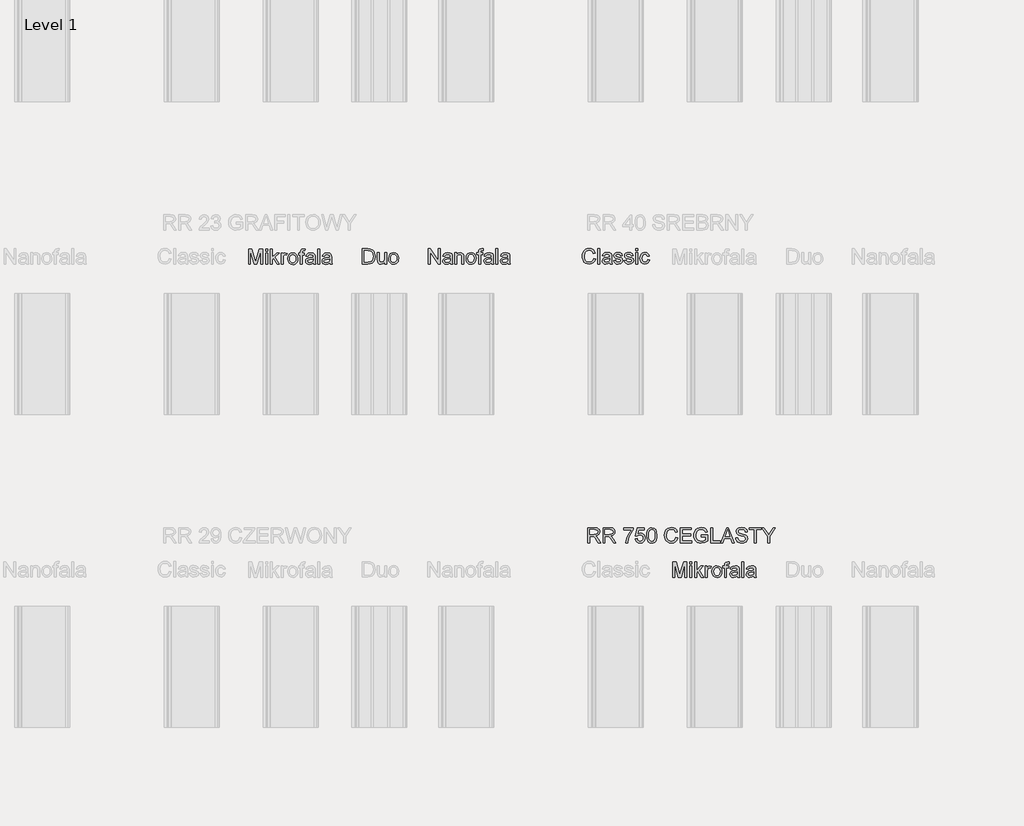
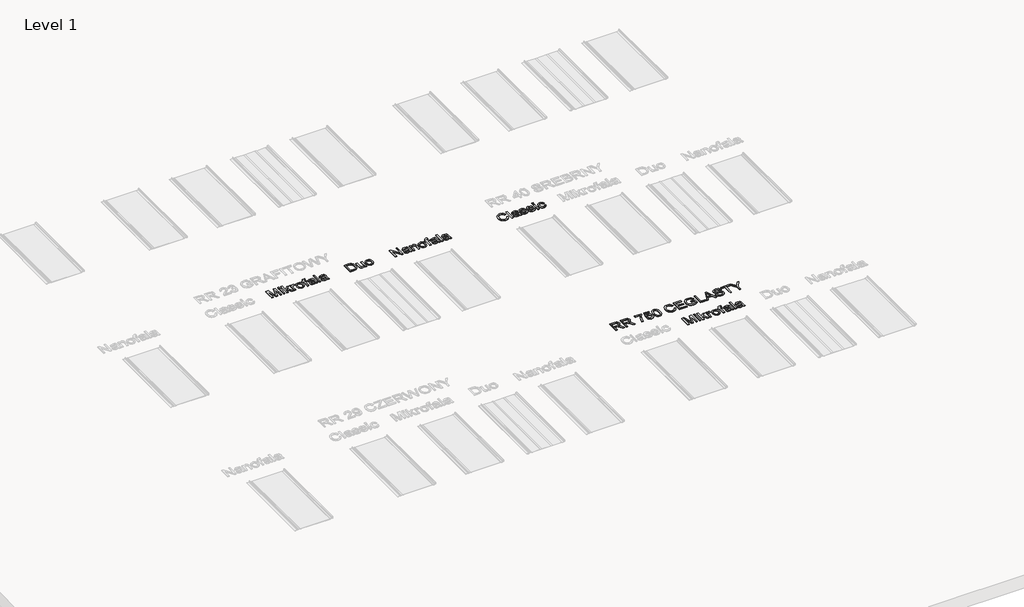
# One storey, part 13 of 22: 6 proxies.
"""IFC4 building model written with IfcOpenShell, lengths in millimetres."""

from ifc_helpers import new_model, si_unit, frame, origin, place, context, project, spatial, polyline, outline, extrude, element, save

model = new_model("IFC4")

# Units and contexts
model_context = context("Model", 3, world=origin())
ifc_project = project(units=[si_unit("LENGTHUNIT", "METRE", prefix="MILLI")], contexts=[model_context])

# Site, building, storey
site = spatial("IfcSite", under=ifc_project)
building = spatial("IfcBuilding", under=site)
storey = spatial("IfcBuildingStorey", under=building, Name="Level 1", Elevation=0.0)

# Proxies
placement = place(None, origin())
element("IfcBuildingElementProxy", 1, Name="150", ObjectType="150", at=placement, inside=storey, context=model_context, shape_type="SweptSolid", body=[
    extrude(outline(polyline([(-3695.6654959, -1975.281387), (-3695.6654959, -1824.5969218), (-3663.3654568, -1824.5969218), (-3632.4633692, -1930.8044538), (-3626.2093753, -1952.9877381), (-3619.4771347, -1928.9650438), (-3589.1636583, -1824.5969218), (-3556.7532546, -1824.5969218), (-3556.7532546, -1975.281387), (-3575.5888127, -1975.281387), (-3575.5888127, -1843.4324799), (-3613.44387, -1975.281387), (-3638.9380923, -1975.281387), (-3676.8299378, -1843.4324799), (-3676.8299378, -1975.281387), (-3695.6654959, -1975.281387)])), frame((0.0, 0.0, 600.0), z_axis=(0.0, 0.0, 1.0), x_axis=(1.0, 0.0, 0.0)), (0.0, 0.0, 1.0), 10.0),
    extrude(outline(polyline([(-3526.1454726, -1843.4324799), (-3526.1454726, -1824.5969218), (-3507.3099144, -1824.5969218), (-3507.3099144, -1843.4324799), (-3526.1454726, -1843.4324799)])), frame((0.0, 0.0, 600.0), z_axis=(0.0, 0.0, 1.0), x_axis=(1.0, 0.0, 0.0)), (0.0, 0.0, 1.0), 10.0),
    extrude(outline(polyline([(-3526.1454726, -1975.281387), (-3526.1454726, -1864.6224829), (-3507.3099144, -1864.6224829), (-3507.3099144, -1975.281387), (-3526.1454726, -1975.281387)])), frame((0.0, 0.0, 600.0), z_axis=(0.0, 0.0, 1.0), x_axis=(1.0, 0.0, 0.0)), (0.0, 0.0, 1.0), 10.0),
    extrude(outline(polyline([(-3479.0565772, -1975.281387), (-3479.0565772, -1824.5969218), (-3460.221019, -1824.5969218), (-3460.221019, -1905.5677489), (-3417.988166, -1864.6224829), (-3391.9421207, -1864.6224829), (-3434.7267968, -1906.0827837), (-3389.587676, -1975.281387), (-3411.5870193, -1975.281387), (-3448.228066, -1919.1793827), (-3460.221019, -1930.841242), (-3460.221019, -1975.281387), (-3479.0565772, -1975.281387)])), frame((0.0, 0.0, 600.0), z_axis=(0.0, 0.0, 1.0), x_axis=(1.0, 0.0, 0.0)), (0.0, 0.0, 1.0), 10.0),
    extrude(outline(polyline([(-3373.1065626, -1975.281387), (-3373.1065626, -1864.6224829), (-3356.6254492, -1864.6224829), (-3356.6254492, -1880.9932316), (-3344.9268017, -1865.9100698), (-3333.1545779, -1862.2680381), (-3314.2454433, -1868.0805736), (-3320.5362255, -1884.9663572), (-3333.7799773, -1881.1035962), (-3344.4301611, -1884.8192044), (-3351.2175839, -1895.1199003), (-3354.2710044, -1917.1192436), (-3354.2710044, -1975.281387), (-3373.1065626, -1975.281387)])), frame((0.0, 0.0, 600.0), z_axis=(0.0, 0.0, 1.0), x_axis=(1.0, 0.0, 0.0)), (0.0, 0.0, 1.0), 10.0),
    extrude(outline(polyline([(-3307.182109, -1919.9519349), (-3303.1078159, -1893.2712932), (-3290.8849367, -1874.5185085), (-3275.7833808, -1865.3306557), (-3257.7019807, -1862.2680381), (-3237.9145279, -1865.9974418), (-3222.1093977, -1877.185653), (-3211.748921, -1894.9497548), (-3208.2954287, -1918.4068306), (-3209.822139, -1937.4355268), (-3214.4022699, -1951.9208803), (-3221.902464, -1962.7688007), (-3232.1893643, -1970.8851972), (-3244.4076451, -1975.9481731), (-3257.7019807, -1977.6358318), (-3277.7285568, -1973.9202236), (-3293.5152929, -1962.7733992), (-3303.765405, -1944.6368168), (-3307.182109, -1919.9519349)]), holes=[polyline([(-3288.3465509, -1919.9151467), (-3286.1668501, -1936.9618787), (-3279.6277476, -1949.1065831), (-3269.7869042, -1956.376851), (-3257.7019807, -1958.8002736), (-3245.6722394, -1956.3630554), (-3235.8497902, -1949.0514008), (-3229.3106877, -1936.745748), (-3227.1309869, -1919.3265355), (-3229.3244833, -1902.7764443), (-3235.9049725, -1890.7972868), (-3245.7412173, -1883.5270189), (-3257.7019807, -1881.1035962), (-3269.7869042, -1883.5178218), (-3279.6277476, -1890.7604986), (-3286.1668501, -1902.8776118), (-3288.3465509, -1919.9151467)])]), frame((0.0, 0.0, 600.0), z_axis=(0.0, 0.0, 1.0), x_axis=(1.0, 0.0, 0.0)), (0.0, 0.0, 1.0), 10.0),
    extrude(outline(polyline([(-3182.3965363, -1975.281387), (-3182.3965363, -1883.458041), (-3198.8776497, -1883.458041), (-3198.8776497, -1864.6224829), (-3182.3965363, -1864.6224829), (-3182.3965363, -1853.4756584), (-3180.4099735, -1837.7670972), (-3170.7714652, -1826.5466964), (-3151.7887543, -1822.242477), (-3134.6086651, -1824.3026162), (-3137.3677801, -1841.960952), (-3148.2202989, -1841.0780352), (-3160.0844933, -1844.2050321), (-3163.5609781, -1855.8668914), (-3163.5609781, -1864.6224829), (-3142.3709752, -1864.6224829), (-3142.3709752, -1883.458041), (-3163.5609781, -1883.458041), (-3163.5609781, -1975.281387), (-3182.3965363, -1975.281387)])), frame((0.0, 0.0, 600.0), z_axis=(0.0, 0.0, 1.0), x_axis=(1.0, 0.0, 0.0)), (0.0, 0.0, 1.0), 10.0),
    extrude(outline(polyline([(-3055.2565187, -1961.1547184), (-3073.5218598, -1973.9202236), (-3093.7001872, -1977.6358318), (-3109.4409381, -1975.4009487), (-3121.0522136, -1968.6962993), (-3128.2121169, -1958.5151651), (-3130.5987514, -1945.8508274), (-3126.9935078, -1930.9516066), (-3117.5205464, -1920.1358759), (-3104.3319769, -1913.9554584), (-3088.0348045, -1911.1227671), (-3055.3668833, -1904.6480439), (-3055.2565187, -1900.4541892), (-3056.5533028, -1892.0480856), (-3060.4436549, -1886.5482498), (-3069.1440641, -1882.4647596), (-3081.2657758, -1881.1035962), (-3100.3220632, -1884.7272339), (-3109.4087484, -1897.5847096), (-3128.2443066, -1895.2302649), (-3120.0957204, -1876.8361651), (-3103.6881834, -1866.0572226), (-3078.8377546, -1862.2680381), (-3056.0106768, -1865.6157643), (-3043.1164129, -1874.0218678), (-3037.3406656, -1886.8057672), (-3036.4209606, -1903.2868806), (-3036.4209606, -1926.7209636), (-3035.4644674, -1959.4440671), (-3031.7120711, -1975.281387), (-3050.5476292, -1975.281387), (-3055.2565187, -1961.1547184)]), holes=[polyline([(-3055.2565187, -1923.4836021), (-3085.6435715, -1929.2593494), (-3101.8487734, -1932.31277), (-3109.1880192, -1937.2791769), (-3111.7631932, -1944.5264522), (-3106.1529928, -1954.7167835), (-3089.6902735, -1958.8002736), (-3070.6339861, -1954.2937192), (-3058.3467275, -1943.386018), (-3055.3668833, -1928.817891), (-3055.2565187, -1923.4836021)])]), frame((0.0, 0.0, 600.0), z_axis=(0.0, 0.0, 1.0), x_axis=(1.0, 0.0, 0.0)), (0.0, 0.0, 1.0), 10.0),
    extrude(outline(polyline([(-3010.5220681, -1975.281387), (-3010.5220681, -1824.5969218), (-2991.68651, -1824.5969218), (-2991.68651, -1975.281387), (-3010.5220681, -1975.281387)])), frame((0.0, 0.0, 600.0), z_axis=(0.0, 0.0, 1.0), x_axis=(1.0, 0.0, 0.0)), (0.0, 0.0, 1.0), 10.0),
    extrude(outline(polyline([(-2892.7998297, -1961.1547184), (-2911.0651707, -1973.9202236), (-2931.2434982, -1977.6358318), (-2946.984249, -1975.4009487), (-2958.5955245, -1968.6962993), (-2965.7554278, -1958.5151651), (-2968.1420623, -1945.8508274), (-2964.5368187, -1930.9516066), (-2955.0638574, -1920.1358759), (-2941.8752878, -1913.9554584), (-2925.5781154, -1911.1227671), (-2892.9101943, -1904.6480439), (-2892.7998297, -1900.4541892), (-2894.0966137, -1892.0480856), (-2897.9869658, -1886.5482498), (-2906.687375, -1882.4647596), (-2918.8090867, -1881.1035962), (-2937.8653741, -1884.7272339), (-2946.9520594, -1897.5847096), (-2965.7876175, -1895.2302649), (-2957.6390313, -1876.8361651), (-2941.2314943, -1866.0572226), (-2916.3810656, -1862.2680381), (-2893.5539878, -1865.6157643), (-2880.6597238, -1874.0218678), (-2874.8839765, -1886.8057672), (-2873.9642715, -1903.2868806), (-2873.9642715, -1926.7209636), (-2873.0077783, -1959.4440671), (-2869.255382, -1975.281387), (-2888.0909401, -1975.281387), (-2892.7998297, -1961.1547184)]), holes=[polyline([(-2892.7998297, -1923.4836021), (-2923.1868825, -1929.2593494), (-2939.3920844, -1932.31277), (-2946.7313302, -1937.2791769), (-2949.3065041, -1944.5264522), (-2943.6963037, -1954.7167835), (-2927.2335844, -1958.8002736), (-2908.1772971, -1954.2937192), (-2895.8900384, -1943.386018), (-2892.9101943, -1928.817891), (-2892.7998297, -1923.4836021)])]), frame((0.0, 0.0, 600.0), z_axis=(0.0, 0.0, 1.0), x_axis=(1.0, 0.0, 0.0)), (0.0, 0.0, 1.0), 10.0),
])
element("IfcBuildingElementProxy", 2, Name="150", ObjectType="150", at=placement, inside=storey, context=model_context, shape_type="SweptSolid", body=[
    extrude(outline(polyline([(-2567.5807075, -1972.1592468), (-2567.5807075, -1821.4747816), (-2515.5989816, -1821.4747816), (-2488.7068077, -1823.6452853), (-2466.5603116, -1834.4242278), (-2456.1400541, -1845.902146), (-2448.7180349, -1860.1759675), (-2444.2758598, -1876.9697805), (-2442.7951347, -1896.0076738), (-2446.8050485, -1926.4131207), (-2457.1057443, -1948.3572817), (-2470.864531, -1962.0240978), (-2488.8723546, -1969.5840728), (-2513.097384, -1972.1592468), (-2567.5807075, -1972.1592468)]), holes=[polyline([(-2548.7451493, -1953.3236886), (-2515.4150406, -1953.3236886), (-2491.1716171, -1950.6013619), (-2477.1921013, -1942.9126282), (-2465.7325771, -1924.2058287), (-2461.6306929, -1895.7133682), (-2463.6402483, -1875.1855529), (-2469.6689145, -1860.0288147), (-2478.5762573, -1849.6177542), (-2489.2218425, -1843.3269721), (-2515.9300754, -1840.3103397), (-2548.7451493, -1840.3103397), (-2548.7451493, -1953.3236886)])]), frame((0.0, 0.0, 600.0), z_axis=(0.0, 0.0, 1.0), x_axis=(1.0, 0.0, 0.0)), (0.0, 0.0, 1.0), 10.0),
    extrude(outline(polyline([(-2348.617344, -1972.1592468), (-2348.617344, -1953.1397476), (-2363.369412, -1969.1702056), (-2382.6096403, -1974.5136916), (-2400.3231584, -1970.7612952), (-2412.5368406, -1961.3435161), (-2418.1470411, -1947.4743649), (-2419.250687, -1929.9631819), (-2419.250687, -1861.5003426), (-2400.4151289, -1861.5003426), (-2400.4151289, -1921.0972259), (-2399.2746947, -1940.300666), (-2391.8250843, -1951.5762492), (-2377.7903862, -1955.6781334), (-2362.0634309, -1951.4842787), (-2351.6707645, -1940.0615427), (-2348.617344, -1919.0738749), (-2348.617344, -1861.5003426), (-2329.7817858, -1861.5003426), (-2329.7817858, -1972.1592468), (-2348.617344, -1972.1592468)])), frame((0.0, 0.0, 600.0), z_axis=(0.0, 0.0, 1.0), x_axis=(1.0, 0.0, 0.0)), (0.0, 0.0, 1.0), 10.0),
    extrude(outline(polyline([(-2308.5917829, -1916.8297947), (-2304.5174898, -1890.149153), (-2292.2946105, -1871.3963683), (-2277.1930546, -1862.2085155), (-2259.1116545, -1859.1458979), (-2239.3242017, -1862.8753016), (-2223.5190715, -1874.0635128), (-2213.1585948, -1891.8276146), (-2209.7051026, -1915.2846903), (-2211.2318129, -1934.3133865), (-2215.8119437, -1948.7987401), (-2223.3121379, -1959.6466604), (-2233.5990382, -1967.7630569), (-2245.8173189, -1972.8260329), (-2259.1116545, -1974.5136916), (-2279.1382307, -1970.7980834), (-2294.9249668, -1959.651259), (-2305.1750789, -1941.5146766), (-2308.5917829, -1916.8297947)]), holes=[polyline([(-2289.7562247, -1916.7930065), (-2287.5765239, -1933.8397385), (-2281.0374215, -1945.9844428), (-2271.1965781, -1953.2547108), (-2259.1116545, -1955.6781334), (-2247.0819133, -1953.2409152), (-2237.259464, -1945.9292605), (-2230.7203616, -1933.6236078), (-2228.5406607, -1916.2043953), (-2230.7341571, -1899.6543041), (-2237.3146463, -1887.6751466), (-2247.1508912, -1880.4048787), (-2259.1116545, -1877.981456), (-2271.1965781, -1880.3956816), (-2281.0374215, -1887.6383584), (-2287.5765239, -1899.7554716), (-2289.7562247, -1916.7930065)])]), frame((0.0, 0.0, 600.0), z_axis=(0.0, 0.0, 1.0), x_axis=(1.0, 0.0, 0.0)), (0.0, 0.0, 1.0), 10.0),
])
element("IfcBuildingElementProxy", 3, Name="150", ObjectType="150", at=placement, inside=storey, context=model_context, shape_type="SweptSolid", body=[
    extrude(outline(polyline([(-279.0085992, -1917.1818641), (-260.1730411, -1922.0379064), (-268.8642532, -1943.986666), (-282.5034782, -1960.0217224), (-300.4193314, -1969.8303761), (-321.9404281, -1973.0999274), (-343.7880201, -1970.6259209), (-361.1382547, -1963.2039017), (-374.4371888, -1951.091387), (-384.1308794, -1934.5458943), (-390.049181, -1915.0941338), (-392.0219482, -1894.2628158), (-389.7916636, -1872.2910636), (-383.1008098, -1853.3175497), (-372.2988747, -1837.9446809), (-357.7353462, -1826.7748638), (-340.4632865, -1819.9736454), (-321.5357579, -1817.7065726), (-300.8837824, -1820.6404315), (-283.8094593, -1829.4420082), (-270.8462175, -1843.5686769), (-262.5274859, -1862.4778114), (-281.363044, -1866.9659718), (-287.8929494, -1853.2301778), (-296.8140878, -1843.8078002), (-308.2368238, -1838.3585481), (-322.2715219, -1836.5421308), (-338.4491326, -1838.5562847), (-351.7388697, -1844.5987464), (-361.8234349, -1854.0349196), (-368.38553, -1866.2302078), (-373.18639, -1894.2260276), (-371.7654458, -1911.626846), (-367.5026132, -1926.6732196), (-360.2369438, -1938.7903328), (-349.8074892, -1947.40337), (-337.3040999, -1952.5491194), (-323.8166263, -1954.2643692), (-308.0942695, -1951.9283185), (-294.9930719, -1944.9201665), (-285.1016448, -1933.3134896), (-279.0085992, -1917.1818641)])), frame((0.0, 0.0, 600.0), z_axis=(0.0, 0.0, 1.0), x_axis=(1.0, 0.0, 0.0)), (0.0, 0.0, 1.0), 10.0),
    extrude(outline(polyline([(-236.6285934, -1970.7454826), (-236.6285934, -1820.0610174), (-217.7930352, -1820.0610174), (-217.7930352, -1970.7454826), (-236.6285934, -1970.7454826)])), frame((0.0, 0.0, 600.0), z_axis=(0.0, 0.0, 1.0), x_axis=(1.0, 0.0, 0.0)), (0.0, 0.0, 1.0), 10.0),
    extrude(outline(polyline([(-118.9063549, -1956.618814), (-137.171696, -1969.3843192), (-157.3500234, -1973.0999274), (-173.0907743, -1970.8650442), (-184.7020498, -1964.1603949), (-191.8619531, -1953.9792607), (-194.2485875, -1941.314923), (-190.643344, -1926.4157022), (-181.1703826, -1915.5999715), (-167.9818131, -1909.419554), (-151.6846407, -1906.5868626), (-119.0167195, -1900.1121395), (-118.9063549, -1895.9182848), (-120.203139, -1887.5121812), (-124.0934911, -1882.0123454), (-132.7939003, -1877.9288552), (-144.915612, -1876.5676918), (-163.9718993, -1880.1913295), (-173.0585846, -1893.0488052), (-191.8941428, -1890.6943604), (-183.7455566, -1872.3002607), (-167.3380196, -1861.5213182), (-142.4875908, -1857.7321337), (-119.660513, -1861.0798598), (-106.7662491, -1869.4859634), (-100.9905018, -1882.2698628), (-100.0707968, -1898.7509761), (-100.0707968, -1922.1850592), (-99.1143036, -1954.9081627), (-95.3619072, -1970.7454826), (-114.1974654, -1970.7454826), (-118.9063549, -1956.618814)]), holes=[polyline([(-118.9063549, -1918.9476977), (-149.2934077, -1924.723445), (-165.4986096, -1927.7768656), (-172.8378554, -1932.7432725), (-175.4130294, -1939.9905478), (-169.802829, -1950.1808791), (-153.3401097, -1954.2643692), (-134.2838223, -1949.7578148), (-121.9965637, -1938.8501136), (-119.0167195, -1924.2819866), (-118.9063549, -1918.9476977)])]), frame((0.0, 0.0, 600.0), z_axis=(0.0, 0.0, 1.0), x_axis=(1.0, 0.0, 0.0)), (0.0, 0.0, 1.0), 10.0),
    extrude(outline(polyline([(-81.2352386, -1937.7832558), (-62.3996805, -1935.4288111), (-59.4290334, -1943.4854268), (-53.6808772, -1949.4083269), (-33.7048849, -1954.2643692), (-14.5014447, -1949.8129971), (-8.2474508, -1939.3651484), (-9.8201463, -1934.5642884), (-14.5382329, -1930.9038625), (-33.9256141, -1925.5327854), (-62.2893159, -1916.3173414), (-74.668545, -1905.5567931), (-78.8807939, -1890.3632666), (-75.4962795, -1876.3285685), (-66.2624414, -1865.6048084), (-54.2878825, -1860.0313961), (-38.0826806, -1857.7321337), (-15.1636323, -1861.4293477), (-0.5955053, -1871.435738), (5.8792178, -1888.3399157), (-12.9563403, -1890.6943604), (-20.0380687, -1880.3016941), (-36.6111526, -1876.5676918), (-54.6373704, -1880.1361472), (-60.0452357, -1888.4502803), (-57.8011555, -1893.931722), (-50.7746094, -1898.0887885), (-34.5510134, -1902.0987023), (-6.9046815, -1910.9646584), (5.9344001, -1921.0078368), (10.5881074, -1937.3785856), (5.1250597, -1955.4048034), (-10.6386838, -1968.4830083), (-33.9624023, -1973.0999274), (-52.9543103, -1970.8742413), (-66.8142644, -1964.1971831), (-76.0664966, -1953.1423291), (-81.2352386, -1937.7832558)])), frame((0.0, 0.0, 600.0), z_axis=(0.0, 0.0, 1.0), x_axis=(1.0, 0.0, 0.0)), (0.0, 0.0, 1.0), 10.0),
    extrude(outline(polyline([(24.714776, -1937.7832558), (43.5503341, -1935.4288111), (46.5209812, -1943.4854268), (52.2691374, -1949.4083269), (72.2451298, -1954.2643692), (91.4485699, -1949.8129971), (97.7025638, -1939.3651484), (96.1298683, -1934.5642884), (91.4117817, -1930.9038625), (72.0244006, -1925.5327854), (43.6606987, -1916.3173414), (31.2814696, -1905.5567931), (27.0692207, -1890.3632666), (30.4537351, -1876.3285685), (39.6875732, -1865.6048084), (51.6621321, -1860.0313961), (67.867334, -1857.7321337), (90.7863823, -1861.4293477), (105.3545093, -1871.435738), (111.8292324, -1888.3399157), (92.9936743, -1890.6943604), (85.9119459, -1880.3016941), (69.338862, -1876.5676918), (51.3126442, -1880.1361472), (45.9047789, -1888.4502803), (48.1488591, -1893.931722), (55.1754052, -1898.0887885), (71.3990012, -1902.0987023), (99.0453331, -1910.9646584), (111.8844147, -1921.0078368), (116.538122, -1937.3785856), (111.0750743, -1955.4048034), (95.3113309, -1968.4830083), (71.9876124, -1973.0999274), (52.9957044, -1970.8742413), (39.1357502, -1964.1971831), (29.883518, -1953.1423291), (24.714776, -1937.7832558)])), frame((0.0, 0.0, 600.0), z_axis=(0.0, 0.0, 1.0), x_axis=(1.0, 0.0, 0.0)), (0.0, 0.0, 1.0), 10.0),
    extrude(outline(polyline([(137.7281249, -1838.8965755), (137.7281249, -1820.0610174), (156.5636831, -1820.0610174), (156.5636831, -1838.8965755), (137.7281249, -1838.8965755)])), frame((0.0, 0.0, 600.0), z_axis=(0.0, 0.0, 1.0), x_axis=(1.0, 0.0, 0.0)), (0.0, 0.0, 1.0), 10.0),
    extrude(outline(polyline([(137.7281249, -1970.7454826), (137.7281249, -1860.0865784), (156.5636831, -1860.0865784), (156.5636831, -1970.7454826), (137.7281249, -1970.7454826)])), frame((0.0, 0.0, 600.0), z_axis=(0.0, 0.0, 1.0), x_axis=(1.0, 0.0, 0.0)), (0.0, 0.0, 1.0), 10.0),
    extrude(outline(polyline([(255.4503634, -1930.7199215), (274.2859215, -1933.0743663), (269.034406, -1949.8267926), (259.1659715, -1962.4865318), (245.60952, -1970.4465785), (229.2939535, -1973.0999274), (209.2581803, -1969.3981148), (193.5910059, -1958.2926771), (183.4788495, -1940.2710578), (180.1081307, -1915.8207007), (181.547469, -1899.0590773), (185.865484, -1884.532337), (193.1311534, -1872.8014999), (203.4134551, -1864.427586), (215.7145094, -1859.4059968), (229.0364361, -1857.7321337), (244.9519309, -1860.0313961), (257.6760494, -1866.9291836), (266.8041214, -1878.0576139), (271.9314767, -1893.0488052), (253.0959186, -1895.40325), (244.3587212, -1881.2949755), (229.1835889, -1876.5676918), (217.0112934, -1878.8945454), (207.3497925, -1885.8751063), (201.0452148, -1897.8864535), (198.9436889, -1915.3056659), (200.9992295, -1932.9594032), (207.1658515, -1945.012137), (216.6526084, -1951.9513112), (228.6685541, -1954.2643692), (238.4220255, -1952.8204324), (246.4188604, -1948.4886219), (252.2359944, -1941.1585731), (255.4503634, -1930.7199215)])), frame((0.0, 0.0, 600.0), z_axis=(0.0, 0.0, 1.0), x_axis=(1.0, 0.0, 0.0)), (0.0, 0.0, 1.0), 10.0),
])
element("IfcBuildingElementProxy", 4, Name="150", ObjectType="150", at=placement, inside=storey, context=model_context, shape_type="SweptSolid", body=[
    extrude(outline(polyline([(504.3345041, -5075.281387), (504.3345041, -4924.5969218), (536.6345432, -4924.5969218), (567.5366308, -5030.8044538), (573.7906247, -5052.9877381), (580.5228653, -5028.9650438), (610.8363417, -4924.5969218), (643.2467454, -4924.5969218), (643.2467454, -5075.281387), (624.4111873, -5075.281387), (624.4111873, -4943.4324799), (586.55613, -5075.281387), (561.0619077, -5075.281387), (523.1700622, -4943.4324799), (523.1700622, -5075.281387), (504.3345041, -5075.281387)])), frame((0.0, 0.0, 600.0), z_axis=(0.0, 0.0, 1.0), x_axis=(1.0, 0.0, 0.0)), (0.0, 0.0, 1.0), 10.0),
    extrude(outline(polyline([(673.8545274, -4943.4324799), (673.8545274, -4924.5969218), (692.6900856, -4924.5969218), (692.6900856, -4943.4324799), (673.8545274, -4943.4324799)])), frame((0.0, 0.0, 600.0), z_axis=(0.0, 0.0, 1.0), x_axis=(1.0, 0.0, 0.0)), (0.0, 0.0, 1.0), 10.0),
    extrude(outline(polyline([(673.8545274, -5075.281387), (673.8545274, -4964.6224829), (692.6900856, -4964.6224829), (692.6900856, -5075.281387), (673.8545274, -5075.281387)])), frame((0.0, 0.0, 600.0), z_axis=(0.0, 0.0, 1.0), x_axis=(1.0, 0.0, 0.0)), (0.0, 0.0, 1.0), 10.0),
    extrude(outline(polyline([(720.9434228, -5075.281387), (720.9434228, -4924.5969218), (739.778981, -4924.5969218), (739.778981, -5005.5677489), (782.011834, -4964.6224829), (808.0578793, -4964.6224829), (765.2732032, -5006.0827837), (810.412324, -5075.281387), (788.4129807, -5075.281387), (751.771934, -5019.1793827), (739.778981, -5030.841242), (739.778981, -5075.281387), (720.9434228, -5075.281387)])), frame((0.0, 0.0, 600.0), z_axis=(0.0, 0.0, 1.0), x_axis=(1.0, 0.0, 0.0)), (0.0, 0.0, 1.0), 10.0),
    extrude(outline(polyline([(826.8934374, -5075.281387), (826.8934374, -4964.6224829), (843.3745508, -4964.6224829), (843.3745508, -4980.9932316), (855.0731983, -4965.9100698), (866.8454221, -4962.2680381), (885.7545567, -4968.0805736), (879.4637745, -4984.9663572), (866.2200227, -4981.1035962), (855.5698389, -4984.8192044), (848.7824161, -4995.1199003), (845.7289956, -5017.1192436), (845.7289956, -5075.281387), (826.8934374, -5075.281387)])), frame((0.0, 0.0, 600.0), z_axis=(0.0, 0.0, 1.0), x_axis=(1.0, 0.0, 0.0)), (0.0, 0.0, 1.0), 10.0),
    extrude(outline(polyline([(892.817891, -5019.9519349), (896.8921841, -4993.2712932), (909.1150633, -4974.5185085), (924.2166192, -4965.3306557), (942.2980193, -4962.2680381), (962.0854721, -4965.9974418), (977.8906023, -4977.185653), (988.251079, -4994.9497548), (991.7045713, -5018.4068306), (990.177861, -5037.4355268), (985.5977301, -5051.9208803), (978.097536, -5062.7688007), (967.8106357, -5070.8851972), (955.5923549, -5075.9481731), (942.2980193, -5077.6358318), (922.2714432, -5073.9202236), (906.4847071, -5062.7733992), (896.234595, -5044.6368168), (892.817891, -5019.9519349)]), holes=[polyline([(911.6534491, -5019.9151467), (913.8331499, -5036.9618787), (920.3722524, -5049.1065831), (930.2130958, -5056.376851), (942.2980193, -5058.8002736), (954.3277606, -5056.3630554), (964.1502098, -5049.0514008), (970.6893123, -5036.745748), (972.8690131, -5019.3265355), (970.6755167, -5002.7764443), (964.0950275, -4990.7972868), (954.2587827, -4983.5270189), (942.2980193, -4981.1035962), (930.2130958, -4983.5178218), (920.3722524, -4990.7604986), (913.8331499, -5002.8776118), (911.6534491, -5019.9151467)])]), frame((0.0, 0.0, 600.0), z_axis=(0.0, 0.0, 1.0), x_axis=(1.0, 0.0, 0.0)), (0.0, 0.0, 1.0), 10.0),
    extrude(outline(polyline([(1017.6034637, -5075.281387), (1017.6034637, -4983.458041), (1001.1223503, -4983.458041), (1001.1223503, -4964.6224829), (1017.6034637, -4964.6224829), (1017.6034637, -4953.4756584), (1019.5900265, -4937.7670972), (1029.2285348, -4926.5466964), (1048.2112457, -4922.242477), (1065.3913349, -4924.3026162), (1062.6322199, -4941.960952), (1051.7797011, -4941.0780352), (1039.9155067, -4944.2050321), (1036.4390219, -4955.8668914), (1036.4390219, -4964.6224829), (1057.6290248, -4964.6224829), (1057.6290248, -4983.458041), (1036.4390219, -4983.458041), (1036.4390219, -5075.281387), (1017.6034637, -5075.281387)])), frame((0.0, 0.0, 600.0), z_axis=(0.0, 0.0, 1.0), x_axis=(1.0, 0.0, 0.0)), (0.0, 0.0, 1.0), 10.0),
    extrude(outline(polyline([(1144.7434813, -5061.1547184), (1126.4781402, -5073.9202236), (1106.2998128, -5077.6358318), (1090.5590619, -5075.4009487), (1078.9477864, -5068.6962993), (1071.7878831, -5058.5151651), (1069.4012486, -5045.8508274), (1073.0064922, -5030.9516066), (1082.4794536, -5020.1358759), (1095.6680231, -5013.9554584), (1111.9651955, -5011.1227671), (1144.6331167, -5004.6480439), (1144.7434813, -5000.4541892), (1143.4466972, -4992.0480856), (1139.5563451, -4986.5482498), (1130.8559359, -4982.4647596), (1118.7342242, -4981.1035962), (1099.6779368, -4984.7272339), (1090.5912516, -4997.5847096), (1071.7556934, -4995.2302649), (1079.9042796, -4976.8361651), (1096.3118166, -4966.0572226), (1121.1622454, -4962.2680381), (1143.9893232, -4965.6157643), (1156.8835871, -4974.0218678), (1162.6593344, -4986.8057672), (1163.5790394, -5003.2868806), (1163.5790394, -5026.7209636), (1164.5355326, -5059.4440671), (1168.2879289, -5075.281387), (1149.4523708, -5075.281387), (1144.7434813, -5061.1547184)]), holes=[polyline([(1144.7434813, -5023.4836021), (1114.3564285, -5029.2593494), (1098.1512266, -5032.31277), (1090.8119808, -5037.2791769), (1088.2368068, -5044.5264522), (1093.8470072, -5054.7167835), (1110.3097265, -5058.8002736), (1129.3660139, -5054.2937192), (1141.6532725, -5043.386018), (1144.6331167, -5028.817891), (1144.7434813, -5023.4836021)])]), frame((0.0, 0.0, 600.0), z_axis=(0.0, 0.0, 1.0), x_axis=(1.0, 0.0, 0.0)), (0.0, 0.0, 1.0), 10.0),
    extrude(outline(polyline([(1189.4779319, -5075.281387), (1189.4779319, -4924.5969218), (1208.31349, -4924.5969218), (1208.31349, -5075.281387), (1189.4779319, -5075.281387)])), frame((0.0, 0.0, 600.0), z_axis=(0.0, 0.0, 1.0), x_axis=(1.0, 0.0, 0.0)), (0.0, 0.0, 1.0), 10.0),
    extrude(outline(polyline([(1307.2001703, -5061.1547184), (1288.9348293, -5073.9202236), (1268.7565018, -5077.6358318), (1253.015751, -5075.4009487), (1241.4044755, -5068.6962993), (1234.2445722, -5058.5151651), (1231.8579377, -5045.8508274), (1235.4631813, -5030.9516066), (1244.9361426, -5020.1358759), (1258.1247122, -5013.9554584), (1274.4218846, -5011.1227671), (1307.0898057, -5004.6480439), (1307.2001703, -5000.4541892), (1305.9033863, -4992.0480856), (1302.0130342, -4986.5482498), (1293.312625, -4982.4647596), (1281.1909133, -4981.1035962), (1262.1346259, -4984.7272339), (1253.0479406, -4997.5847096), (1234.2123825, -4995.2302649), (1242.3609687, -4976.8361651), (1258.7685057, -4966.0572226), (1283.6189344, -4962.2680381), (1306.4460122, -4965.6157643), (1319.3402762, -4974.0218678), (1325.1160235, -4986.8057672), (1326.0357285, -5003.2868806), (1326.0357285, -5026.7209636), (1326.9922217, -5059.4440671), (1330.744618, -5075.281387), (1311.9090599, -5075.281387), (1307.2001703, -5061.1547184)]), holes=[polyline([(1307.2001703, -5023.4836021), (1276.8131175, -5029.2593494), (1260.6079156, -5032.31277), (1253.2686698, -5037.2791769), (1250.6934959, -5044.5264522), (1256.3036963, -5054.7167835), (1272.7664156, -5058.8002736), (1291.8227029, -5054.2937192), (1304.1099616, -5043.386018), (1307.0898057, -5028.817891), (1307.2001703, -5023.4836021)])]), frame((0.0, 0.0, 600.0), z_axis=(0.0, 0.0, 1.0), x_axis=(1.0, 0.0, 0.0)), (0.0, 0.0, 1.0), 10.0),
])
element("IfcBuildingElementProxy", 5, Name="150", ObjectType="150", at=placement, inside=storey, context=model_context, shape_type="SweptSolid", body=[
    extrude(outline(polyline([(-1916.7806572, -1972.1592468), (-1916.7806572, -1821.4747816), (-1896.6207239, -1821.4747816), (-1817.8939769, -1940.852489), (-1817.8939769, -1821.4747816), (-1799.0584188, -1821.4747816), (-1799.0584188, -1972.1592468), (-1819.2183521, -1972.1592468), (-1897.9450991, -1852.7447512), (-1897.9450991, -1972.1592468), (-1916.7806572, -1972.1592468)])), frame((0.0, 0.0, 600.0), z_axis=(0.0, 0.0, 1.0), x_axis=(1.0, 0.0, 0.0)), (0.0, 0.0, 1.0), 10.0),
    extrude(outline(polyline([(-1697.8172937, -1958.0325782), (-1716.0826347, -1970.7980834), (-1736.2609622, -1974.5136916), (-1752.001713, -1972.2788084), (-1763.6129885, -1965.5741591), (-1770.7728919, -1955.3930249), (-1773.1595263, -1942.7286872), (-1769.5542827, -1927.8294664), (-1760.0813214, -1917.0137357), (-1746.8927518, -1910.8333182), (-1730.5955795, -1908.0006268), (-1697.9276583, -1901.5259037), (-1697.8172937, -1897.332049), (-1699.1140777, -1888.9259454), (-1703.0044298, -1883.4261096), (-1711.704839, -1879.3426194), (-1723.8265507, -1877.981456), (-1742.8828381, -1881.6050937), (-1751.9695234, -1894.4625694), (-1770.8050815, -1892.1081246), (-1762.6564953, -1873.7140249), (-1746.2489583, -1862.9350824), (-1721.3985296, -1859.1458979), (-1698.5714518, -1862.493624), (-1685.6771878, -1870.8997276), (-1679.9014405, -1883.683627), (-1678.9817355, -1900.1647403), (-1678.9817355, -1923.5988234), (-1678.0252423, -1956.3219269), (-1674.272846, -1972.1592468), (-1693.1084041, -1972.1592468), (-1697.8172937, -1958.0325782)]), holes=[polyline([(-1697.8172937, -1920.3614619), (-1728.2043465, -1926.1372092), (-1744.4095484, -1929.1906298), (-1751.7487942, -1934.1570367), (-1754.3239681, -1941.404312), (-1748.7137677, -1951.5946433), (-1732.2510484, -1955.6781334), (-1713.1947611, -1951.171579), (-1700.9075024, -1940.2638778), (-1697.9276583, -1925.6957508), (-1697.8172937, -1920.3614619)])]), frame((0.0, 0.0, 600.0), z_axis=(0.0, 0.0, 1.0), x_axis=(1.0, 0.0, 0.0)), (0.0, 0.0, 1.0), 10.0),
    extrude(outline(polyline([(-1653.0828431, -1972.1592468), (-1653.0828431, -1861.5003426), (-1634.2472849, -1861.5003426), (-1634.2472849, -1876.9513864), (-1619.8447048, -1863.59727), (-1600.1814122, -1859.1458979), (-1582.3943177, -1862.7327473), (-1570.2542119, -1872.1505264), (-1564.6072232, -1886.0012835), (-1563.6139418, -1904.2114423), (-1563.6139418, -1972.1592468), (-1582.4495, -1972.1592468), (-1582.4495, -1906.749828), (-1584.6200038, -1890.0847737), (-1592.2903434, -1881.2739999), (-1605.2213955, -1877.981456), (-1616.2532568, -1879.8300631), (-1625.6572403, -1885.3758841), (-1632.0997738, -1896.0904472), (-1634.2472849, -1913.4452804), (-1634.2472849, -1972.1592468), (-1653.0828431, -1972.1592468)])), frame((0.0, 0.0, 600.0), z_axis=(0.0, 0.0, 1.0), x_axis=(1.0, 0.0, 0.0)), (0.0, 0.0, 1.0), 10.0),
    extrude(outline(polyline([(-1542.4239389, -1916.8297947), (-1538.3496458, -1890.149153), (-1526.1267665, -1871.3963683), (-1511.0252106, -1862.2085155), (-1492.9438106, -1859.1458979), (-1473.1563578, -1862.8753016), (-1457.3512275, -1874.0635128), (-1446.9907508, -1891.8276146), (-1443.5372586, -1915.2846903), (-1445.0639689, -1934.3133865), (-1449.6440997, -1948.7987401), (-1457.1442939, -1959.6466604), (-1467.4311942, -1967.7630569), (-1479.649475, -1972.8260329), (-1492.9438106, -1974.5136916), (-1512.9703867, -1970.7980834), (-1528.7571228, -1959.651259), (-1539.0072349, -1941.5146766), (-1542.4239389, -1916.8297947)]), holes=[polyline([(-1523.5883808, -1916.7930065), (-1521.4086799, -1933.8397385), (-1514.8695775, -1945.9844428), (-1505.0287341, -1953.2547108), (-1492.9438106, -1955.6781334), (-1480.9140693, -1953.2409152), (-1471.0916201, -1945.9292605), (-1464.5525176, -1933.6236078), (-1462.3728168, -1916.2043953), (-1464.5663132, -1899.6543041), (-1471.1468024, -1887.6751466), (-1480.9830472, -1880.4048787), (-1492.9438106, -1877.981456), (-1505.0287341, -1880.3956816), (-1514.8695775, -1887.6383584), (-1521.4086799, -1899.7554716), (-1523.5883808, -1916.7930065)])]), frame((0.0, 0.0, 600.0), z_axis=(0.0, 0.0, 1.0), x_axis=(1.0, 0.0, 0.0)), (0.0, 0.0, 1.0), 10.0),
    extrude(outline(polyline([(-1417.6383662, -1972.1592468), (-1417.6383662, -1880.3359008), (-1434.1194795, -1880.3359008), (-1434.1194795, -1861.5003426), (-1417.6383662, -1861.5003426), (-1417.6383662, -1850.3535182), (-1415.6518034, -1834.644957), (-1406.0132951, -1823.4245561), (-1387.0305842, -1819.1203368), (-1369.850495, -1821.180476), (-1372.6096099, -1838.8388117), (-1383.4621288, -1837.955895), (-1395.3263231, -1841.0828919), (-1398.802808, -1852.7447512), (-1398.802808, -1861.5003426), (-1377.6128051, -1861.5003426), (-1377.6128051, -1880.3359008), (-1398.802808, -1880.3359008), (-1398.802808, -1972.1592468), (-1417.6383662, -1972.1592468)])), frame((0.0, 0.0, 600.0), z_axis=(0.0, 0.0, 1.0), x_axis=(1.0, 0.0, 0.0)), (0.0, 0.0, 1.0), 10.0),
    extrude(outline(polyline([(-1290.4983486, -1958.0325782), (-1308.7636897, -1970.7980834), (-1328.9420171, -1974.5136916), (-1344.682768, -1972.2788084), (-1356.2940435, -1965.5741591), (-1363.4539468, -1955.3930249), (-1365.8405812, -1942.7286872), (-1362.2353377, -1927.8294664), (-1352.7623763, -1917.0137357), (-1339.5738068, -1910.8333182), (-1323.2766344, -1908.0006268), (-1290.6087132, -1901.5259037), (-1290.4983486, -1897.332049), (-1291.7951327, -1888.9259454), (-1295.6854848, -1883.4261096), (-1304.3858939, -1879.3426194), (-1316.5076057, -1877.981456), (-1335.563893, -1881.6050937), (-1344.6505783, -1894.4625694), (-1363.4861365, -1892.1081246), (-1355.3375503, -1873.7140249), (-1338.9300133, -1862.9350824), (-1314.0795845, -1859.1458979), (-1291.2525067, -1862.493624), (-1278.3582428, -1870.8997276), (-1272.5824955, -1883.683627), (-1271.6627905, -1900.1647403), (-1271.6627905, -1923.5988234), (-1270.7062973, -1956.3219269), (-1266.9539009, -1972.1592468), (-1285.7894591, -1972.1592468), (-1290.4983486, -1958.0325782)]), holes=[polyline([(-1290.4983486, -1920.3614619), (-1320.8854014, -1926.1372092), (-1337.0906033, -1929.1906298), (-1344.4298491, -1934.1570367), (-1347.0050231, -1941.404312), (-1341.3948227, -1951.5946433), (-1324.9321034, -1955.6781334), (-1305.875816, -1951.171579), (-1293.5885574, -1940.2638778), (-1290.6087132, -1925.6957508), (-1290.4983486, -1920.3614619)])]), frame((0.0, 0.0, 600.0), z_axis=(0.0, 0.0, 1.0), x_axis=(1.0, 0.0, 0.0)), (0.0, 0.0, 1.0), 10.0),
    extrude(outline(polyline([(-1245.763898, -1972.1592468), (-1245.763898, -1821.4747816), (-1226.9283399, -1821.4747816), (-1226.9283399, -1972.1592468), (-1245.763898, -1972.1592468)])), frame((0.0, 0.0, 600.0), z_axis=(0.0, 0.0, 1.0), x_axis=(1.0, 0.0, 0.0)), (0.0, 0.0, 1.0), 10.0),
    extrude(outline(polyline([(-1128.0416596, -1958.0325782), (-1146.3070006, -1970.7980834), (-1166.485328, -1974.5136916), (-1182.2260789, -1972.2788084), (-1193.8373544, -1965.5741591), (-1200.9972577, -1955.3930249), (-1203.3838922, -1942.7286872), (-1199.7786486, -1927.8294664), (-1190.3056872, -1917.0137357), (-1177.1171177, -1910.8333182), (-1160.8199453, -1908.0006268), (-1128.1520242, -1901.5259037), (-1128.0416596, -1897.332049), (-1129.3384436, -1888.9259454), (-1133.2287957, -1883.4261096), (-1141.9292049, -1879.3426194), (-1154.0509166, -1877.981456), (-1173.107204, -1881.6050937), (-1182.1938892, -1894.4625694), (-1201.0294474, -1892.1081246), (-1192.8808612, -1873.7140249), (-1176.4733242, -1862.9350824), (-1151.6228954, -1859.1458979), (-1128.7958176, -1862.493624), (-1115.9015537, -1870.8997276), (-1110.1258064, -1883.683627), (-1109.2061014, -1900.1647403), (-1109.2061014, -1923.5988234), (-1108.2496082, -1956.3219269), (-1104.4972119, -1972.1592468), (-1123.33277, -1972.1592468), (-1128.0416596, -1958.0325782)]), holes=[polyline([(-1128.0416596, -1920.3614619), (-1158.4287124, -1926.1372092), (-1174.6339142, -1929.1906298), (-1181.97316, -1934.1570367), (-1184.548334, -1941.404312), (-1178.9381336, -1951.5946433), (-1162.4754143, -1955.6781334), (-1143.419127, -1951.171579), (-1131.1318683, -1940.2638778), (-1128.1520242, -1925.6957508), (-1128.0416596, -1920.3614619)])]), frame((0.0, 0.0, 600.0), z_axis=(0.0, 0.0, 1.0), x_axis=(1.0, 0.0, 0.0)), (0.0, 0.0, 1.0), 10.0),
])
element("IfcBuildingElementProxy", 6, Name="150 Blue", ObjectType="150 Blue", at=placement, inside=storey, context=model_context, shape_type="SweptSolid", body=[
    extrude(outline(polyline([(-336.4118342, -4735.6514112), (-336.4118342, -4584.966946), (-271.4806621, -4584.966946), (-241.3327325, -4589.032042), (-232.0529092, -4594.6606365), (-224.8516192, -4603.416228), (-220.2301016, -4614.2733454), (-218.6895957, -4626.2065176), (-221.2417771, -4641.0505561), (-228.8983211, -4653.3562089), (-241.8891541, -4662.3785148), (-260.4442022, -4667.3725129), (-249.7388361, -4675.4291286), (-234.4717333, -4694.8165097), (-209.3453931, -4735.6514112), (-231.2343718, -4735.6514112), (-250.8424821, -4704.4182298), (-265.0059389, -4683.7432617), (-274.9571469, -4673.9759947), (-283.9150735, -4670.3891452), (-294.8411687, -4669.7269577), (-317.576276, -4669.7269577), (-317.576276, -4735.6514112), (-336.4118342, -4735.6514112)]), holes=[polyline([(-317.576276, -4650.8913995), (-275.4169994, -4650.8913995), (-253.9142968, -4648.224255), (-241.7006145, -4639.6893927), (-237.5251539, -4626.9054934), (-239.5163152, -4617.7176406), (-245.4897991, -4610.3140154), (-255.7675023, -4605.4303819), (-270.6713217, -4603.8025041), (-317.576276, -4603.8025041), (-317.576276, -4650.8913995)])]), frame((0.0, 0.0, 600.0), z_axis=(0.0, 0.0, 1.0), x_axis=(1.0, 0.0, 0.0)), (0.0, 0.0, 1.0), 10.0),
    extrude(outline(polyline([(-185.727369, -4735.6514112), (-185.727369, -4584.966946), (-120.7961968, -4584.966946), (-90.6482673, -4589.032042), (-81.368444, -4594.6606365), (-74.1671539, -4603.416228), (-69.5456364, -4614.2733454), (-68.0051305, -4626.2065176), (-70.5573119, -4641.0505561), (-78.2138559, -4653.3562089), (-91.2046888, -4662.3785148), (-109.759737, -4667.3725129), (-99.0543709, -4675.4291286), (-83.7872681, -4694.8165097), (-58.6609278, -4735.6514112), (-80.5499066, -4735.6514112), (-100.1580169, -4704.4182298), (-114.3214737, -4683.7432617), (-124.2726817, -4673.9759947), (-133.2306083, -4670.3891452), (-144.1567035, -4669.7269577), (-166.8918108, -4669.7269577), (-166.8918108, -4735.6514112), (-185.727369, -4735.6514112)]), holes=[polyline([(-166.8918108, -4650.8913995), (-124.7325342, -4650.8913995), (-103.2298316, -4648.224255), (-91.0161493, -4639.6893927), (-86.8406887, -4626.9054934), (-88.83185, -4617.7176406), (-94.8053339, -4610.3140154), (-105.0830371, -4605.4303819), (-119.9868564, -4603.8025041), (-166.8918108, -4603.8025041), (-166.8918108, -4650.8913995)])]), frame((0.0, 0.0, 600.0), z_axis=(0.0, 0.0, 1.0), x_axis=(1.0, 0.0, 0.0)), (0.0, 0.0, 1.0), 10.0),
    extrude(outline(polyline([(16.7548812, -4606.1569489), (16.7548812, -4587.3213907), (115.6415615, -4587.3213907), (115.6415615, -4602.5517053), (87.5905593, -4643.0739071), (75.2803081, -4668.5359397), (66.1246449, -4694.7061451), (59.134887, -4735.6514112), (40.2993289, -4735.6514112), (47.7857275, -4693.1610407), (56.4999322, -4668.7014866), (68.3319369, -4645.1340463), (96.8060033, -4606.1569489), (16.7548812, -4606.1569489)])), frame((0.0, 0.0, 600.0), z_axis=(0.0, 0.0, 1.0), x_axis=(1.0, 0.0, 0.0)), (0.0, 0.0, 1.0), 10.0),
    extrude(outline(polyline([(132.1226749, -4695.6258501), (150.958233, -4693.2714053), (154.4163238, -4704.5791782), (160.4495885, -4712.6771806), (169.030436, -4717.5470185), (180.1312752, -4719.1702978), (193.6325444, -4716.9124221), (203.7492993, -4710.1387948), (210.0676726, -4699.6311653), (212.173797, -4686.1712828), (210.2010298, -4673.4977481), (204.2827282, -4663.8040575), (194.372907, -4657.6512312), (180.4255808, -4655.600289), (163.8892851, -4658.8744388), (153.3126778, -4667.3725129), (134.4771196, -4665.0180681), (150.958233, -4587.3213907), (223.9460209, -4587.3213907), (223.9460209, -4606.1569489), (166.1885476, -4606.1569489), (158.0951437, -4647.6540379), (171.5504277, -4639.4870576), (185.6495052, -4636.7647309), (203.2526586, -4640.1400482), (217.8759679, -4650.2660001), (227.7260084, -4665.6986498), (231.0093552, -4684.9940605), (228.0571021, -4703.8296186), (219.2003431, -4719.94285), (202.2409831, -4733.4901045), (180.0576988, -4738.005856), (161.557833, -4735.1041867), (146.8195606, -4726.399179), (136.7166013, -4712.9025083), (132.1226749, -4695.6258501)])), frame((0.0, 0.0, 600.0), z_axis=(0.0, 0.0, 1.0), x_axis=(1.0, 0.0, 0.0)), (0.0, 0.0, 1.0), 10.0),
    extrude(outline(polyline([(247.4904685, -4661.5231892), (248.8746245, -4637.4039259), (253.0270926, -4618.168296), (259.9064859, -4603.5219941), (269.4714178, -4593.1707145), (281.7908661, -4587.0178881), (296.9338087, -4584.966946), (318.933152, -4589.8229883), (334.1266784, -4603.8208982), (342.9558463, -4626.1145471), (346.3771488, -4661.5231892), (345.0067884, -4685.5044967), (340.8957071, -4704.6941413), (334.0577005, -4719.3542388), (324.5065642, -4729.7469052), (312.1595248, -4735.9411183), (296.9338087, -4738.005856), (277.3624866, -4734.4190065), (262.5000539, -4723.6584581), (251.2428649, -4698.1734329), (247.4904685, -4661.5231892)]), holes=[polyline([(266.3260267, -4661.486401), (268.5333187, -4691.1146971), (275.1551946, -4708.2625966), (285.0144321, -4716.4433725), (296.9338087, -4719.1702978), (308.8531853, -4716.4341755), (318.7124228, -4708.2258084), (325.3342987, -4691.0687119), (327.5415907, -4661.486401), (325.4078751, -4632.5248909), (319.0067284, -4615.2436342), (309.165885, -4606.6627866), (296.7130795, -4603.8025041), (284.9224616, -4606.3224958), (275.4495002, -4613.8824708), (268.6068951, -4632.2397823), (266.3260267, -4661.486401)])]), frame((0.0, 0.0, 600.0), z_axis=(0.0, 0.0, 1.0), x_axis=(1.0, 0.0, 0.0)), (0.0, 0.0, 1.0), 10.0),
    extrude(outline(polyline([(534.7327304, -4682.0877927), (553.5682885, -4686.943835), (544.8770764, -4708.8925946), (531.2378514, -4724.927651), (513.3219983, -4734.7363047), (491.8009015, -4738.005856), (469.9533096, -4735.5318495), (452.603075, -4728.1098303), (439.3041408, -4715.9973156), (429.6104503, -4699.4518229), (423.6921487, -4680.0000624), (421.7193815, -4659.1687444), (423.9496661, -4637.1969922), (430.6405198, -4618.2234783), (441.4424549, -4602.8506095), (456.0059834, -4591.6807924), (473.2780431, -4584.879574), (492.2055717, -4582.6125012), (512.8575472, -4585.5463601), (529.9318703, -4594.3479368), (542.8951121, -4608.4746055), (551.2138438, -4627.38374), (532.3782856, -4631.8719003), (525.8483802, -4618.1361064), (516.9272418, -4608.7137288), (505.5045059, -4603.2644767), (491.4698077, -4601.4480593), (475.292197, -4603.4622133), (462.0024599, -4609.504675), (451.9178947, -4618.9408482), (445.3557996, -4631.1361364), (440.5549396, -4659.1319562), (441.9758838, -4676.5327746), (446.2387164, -4691.5791482), (453.5043858, -4703.6962614), (463.9338404, -4712.3092986), (476.4372297, -4717.455048), (489.9247034, -4719.1702978), (505.6470601, -4716.8342471), (518.7482577, -4709.8260951), (528.6396848, -4698.2194182), (534.7327304, -4682.0877927)])), frame((0.0, 0.0, 600.0), z_axis=(0.0, 0.0, 1.0), x_axis=(1.0, 0.0, 0.0)), (0.0, 0.0, 1.0), 10.0),
    extrude(outline(polyline([(579.467181, -4735.6514112), (579.467181, -4584.966946), (687.7716404, -4584.966946), (687.7716404, -4603.8025041), (598.3027391, -4603.8025041), (598.3027391, -4648.5369547), (683.0627508, -4648.5369547), (683.0627508, -4667.3725129), (598.3027391, -4667.3725129), (598.3027391, -4716.815853), (690.1260851, -4716.815853), (690.1260851, -4735.6514112), (579.467181, -4735.6514112)])), frame((0.0, 0.0, 600.0), z_axis=(0.0, 0.0, 1.0), x_axis=(1.0, 0.0, 0.0)), (0.0, 0.0, 1.0), 10.0),
    extrude(outline(polyline([(789.0127654, -4676.790292), (789.0127654, -4657.9547338), (850.2283294, -4657.9547338), (850.2283294, -4714.2774673), (820.0068235, -4732.0461676), (788.0562723, -4738.005856), (766.9260502, -4735.6376156), (747.8283761, -4728.5328946), (731.963465, -4716.9400132), (720.531532, -4701.1072918), (713.6199491, -4682.1153838), (711.3160881, -4661.0449426), (713.610752, -4639.82275), (720.4947438, -4620.0812824), (731.682955, -4603.5219941), (746.890277, -4591.8463393), (765.4131355, -4584.9209607), (786.5479561, -4582.6125012), (816.0153039, -4587.9651842), (827.7645351, -4594.3663309), (836.6718779, -4602.864405), (848.0578257, -4627.7884102), (830.6937955, -4632.6812407), (822.1037509, -4615.2620283), (807.4252593, -4605.2188498), (786.2536505, -4601.4480593), (762.1389857, -4605.5131554), (745.7314487, -4616.1817333), (736.0377581, -4630.694678), (730.1516462, -4660.2723904), (731.9220783, -4678.2848126), (737.2333746, -4693.1058584), (745.9245868, -4704.6297619), (757.8347664, -4712.750757), (771.7728954, -4717.5654126), (786.5479561, -4719.1702978), (812.3180898, -4714.3326496), (831.3927713, -4704.0135596), (831.3927713, -4676.790292), (789.0127654, -4676.790292)])), frame((0.0, 0.0, 600.0), z_axis=(0.0, 0.0, 1.0), x_axis=(1.0, 0.0, 0.0)), (0.0, 0.0, 1.0), 10.0),
    extrude(outline(polyline([(880.8361114, -4735.6514112), (880.8361114, -4584.966946), (899.6716696, -4584.966946), (899.6716696, -4716.815853), (975.0139022, -4716.815853), (975.0139022, -4735.6514112), (880.8361114, -4735.6514112)])), frame((0.0, 0.0, 600.0), z_axis=(0.0, 0.0, 1.0), x_axis=(1.0, 0.0, 0.0)), (0.0, 0.0, 1.0), 10.0),
    extrude(outline(polyline([(978.6927222, -4735.6514112), (1038.8414284, -4584.966946), (1054.8810834, -4584.966946), (1114.9930014, -4735.6514112), (1095.0905854, -4735.6514112), (1077.8737081, -4688.5625158), (1015.7752273, -4688.5625158), (998.5583499, -4735.6514112), (978.6927222, -4735.6514112)]), holes=[polyline([(1022.6914088, -4669.7269577), (1070.9943147, -4669.7269577), (1057.3826809, -4632.6812407), (1046.8244677, -4603.8025041), (1037.4434768, -4629.4438792), (1022.6914088, -4669.7269577)])]), frame((0.0, 0.0, 600.0), z_axis=(0.0, 0.0, 1.0), x_axis=(1.0, 0.0, 0.0)), (0.0, 0.0, 1.0), 10.0),
    extrude(outline(polyline([(1128.0528122, -4683.8536263), (1146.8883704, -4683.8536263), (1152.9584233, -4702.7075785), (1167.7840677, -4714.6269552), (1190.3720222, -4719.1702978), (1210.0537089, -4715.7306011), (1222.7640319, -4706.2760339), (1226.9394925, -4693.6392873), (1223.8124955, -4681.8854576), (1211.0102021, -4673.3322012), (1183.5845994, -4666.1401082), (1154.0620693, -4656.8510878), (1138.0408084, -4642.8347838), (1132.7617017, -4624.1095903), (1134.3941781, -4613.0777289), (1139.2916071, -4602.7908286), (1147.3252302, -4594.0720253), (1158.3662886, -4587.744455), (1186.288532, -4582.6125012), (1216.0869736, -4587.9835783), (1227.5097096, -4594.6146513), (1235.9526014, -4603.7657159), (1241.2960874, -4614.8665551), (1243.4206059, -4627.3469518), (1224.5850477, -4627.3469518), (1221.126957, -4616.1081569), (1213.9164699, -4607.9963589), (1202.6500838, -4603.0851342), (1187.024296, -4601.4480593), (1171.0306263, -4603.0667401), (1160.0585458, -4607.9227825), (1153.7125814, -4615.0688902), (1151.5972599, -4623.5577673), (1153.096379, -4630.7958455), (1157.5937364, -4636.6175781), (1188.3486712, -4647.1390031), (1221.67878, -4656.5935704), (1232.4163357, -4663.4269785), (1239.9073328, -4671.8606732), (1244.3081212, -4681.8026841), (1245.7750507, -4693.1610407), (1244.087392, -4704.7723162), (1239.024416, -4715.6938129), (1230.7930564, -4725.0931979), (1219.6002467, -4732.1381381), (1206.1403642, -4736.5389265), (1191.1077862, -4738.005856), (1172.6539056, -4736.4239634), (1157.4649777, -4731.6782856), (1145.3662586, -4723.7504286), (1136.1830043, -4712.6219983), (1130.2876953, -4699.0655468), (1128.0528122, -4683.8536263)])), frame((0.0, 0.0, 600.0), z_axis=(0.0, 0.0, 1.0), x_axis=(1.0, 0.0, 0.0)), (0.0, 0.0, 1.0), 10.0),
    extrude(outline(polyline([(1311.6995042, -4735.6514112), (1311.6995042, -4603.8025041), (1262.256164, -4603.8025041), (1262.256164, -4584.966946), (1379.9784025, -4584.966946), (1379.9784025, -4603.8025041), (1330.5350623, -4603.8025041), (1330.5350623, -4735.6514112), (1311.6995042, -4735.6514112)])), frame((0.0, 0.0, 600.0), z_axis=(0.0, 0.0, 1.0), x_axis=(1.0, 0.0, 0.0)), (0.0, 0.0, 1.0), 10.0),
    extrude(outline(polyline([(1443.5484113, -4735.6514112), (1443.5484113, -4671.823885), (1384.687292, -4584.966946), (1406.8705763, -4584.966946), (1438.2876987, -4631.3568656), (1454.3641419, -4655.048466), (1470.5141615, -4629.6646084), (1499.0250161, -4584.966946), (1521.2450886, -4584.966946), (1462.3839694, -4671.823885), (1462.3839694, -4735.6514112), (1443.5484113, -4735.6514112)])), frame((0.0, 0.0, 600.0), z_axis=(0.0, 0.0, 1.0), x_axis=(1.0, 0.0, 0.0)), (0.0, 0.0, 1.0), 10.0),
])

save(model, "model.ifc")
